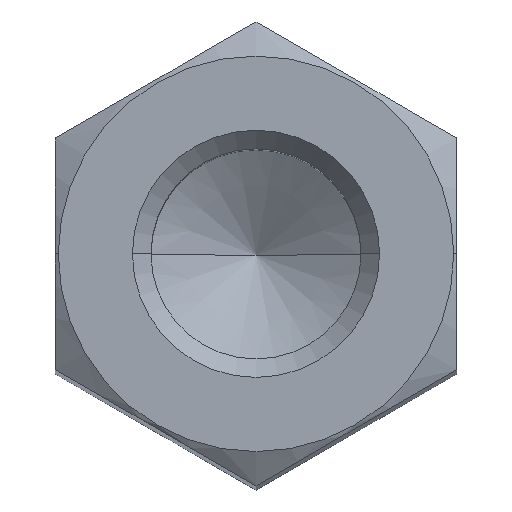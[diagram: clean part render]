
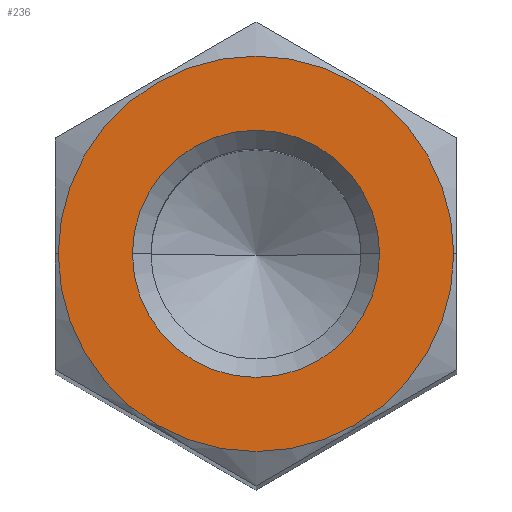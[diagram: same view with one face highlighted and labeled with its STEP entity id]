
A CAD part, top view. The second image highlights one B-rep face of the part: STEP entity #236.
In plain terms, the highlighted planar face has unit normal (0, 0, 1).
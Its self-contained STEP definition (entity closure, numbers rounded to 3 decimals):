
#28 = DIRECTION ( 'NONE',  ( 1., 0., 0. ) ) ;
#68 = DIRECTION ( 'NONE',  ( 1., 0., 0. ) ) ;
#73 = CARTESIAN_POINT ( 'NONE',  ( 0., 0., 0. ) ) ;
#125 = CARTESIAN_POINT ( 'NONE',  ( -4., 0., 0. ) ) ;
#132 = CARTESIAN_POINT ( 'NONE',  ( 0., 0., 0. ) ) ;
#139 = CARTESIAN_POINT ( 'NONE',  ( 0., 0., 0. ) ) ;
#186 = CIRCLE ( 'NONE', #248, 4. ) ;
#190 = CIRCLE ( 'NONE', #430, 6.4 ) ;
#200 = EDGE_CURVE ( 'NONE', #488, #862, #280, .T. ) ;
#236 = ADVANCED_FACE ( 'NONE', ( #267, #265 ), #623, .T. ) ;
#248 = AXIS2_PLACEMENT_3D ( 'NONE', #73, #252, #28 ) ;
#252 = DIRECTION ( 'NONE',  ( 0., 0., -1. ) ) ;
#259 = DIRECTION ( 'NONE',  ( 0., 0., -1. ) ) ;
#265 = FACE_OUTER_BOUND ( 'NONE', #473, .T. ) ;
#267 = FACE_BOUND ( 'NONE', #540, .T. ) ;
#269 = CIRCLE ( 'NONE', #835, 6.4 ) ;
#280 = CIRCLE ( 'NONE', #586, 4. ) ;
#295 = EDGE_CURVE ( 'NONE', #452, #421, #269, .T. ) ;
#366 = CARTESIAN_POINT ( 'NONE',  ( 4., 0., 0. ) ) ;
#367 = EDGE_CURVE ( 'NONE', #862, #488, #186, .T. ) ;
#409 = EDGE_CURVE ( 'NONE', #421, #452, #190, .T. ) ;
#416 = ORIENTED_EDGE ( 'NONE', *, *, #367, .T. ) ;
#421 = VERTEX_POINT ( 'NONE', #676 ) ;
#430 = AXIS2_PLACEMENT_3D ( 'NONE', #855, #565, #68 ) ;
#452 = VERTEX_POINT ( 'NONE', #629 ) ;
#473 = EDGE_LOOP ( 'NONE', ( #687, #512 ) ) ;
#474 = DIRECTION ( 'NONE',  ( 0., 0., 1. ) ) ;
#488 = VERTEX_POINT ( 'NONE', #366 ) ;
#498 = ORIENTED_EDGE ( 'NONE', *, *, #200, .T. ) ;
#512 = ORIENTED_EDGE ( 'NONE', *, *, #409, .T. ) ;
#540 = EDGE_LOOP ( 'NONE', ( #498, #416 ) ) ;
#565 = DIRECTION ( 'NONE',  ( 0., 0., 1. ) ) ;
#586 = AXIS2_PLACEMENT_3D ( 'NONE', #733, #259, #752 ) ;
#623 = PLANE ( 'NONE',  #808 ) ;
#629 = CARTESIAN_POINT ( 'NONE',  ( -6.4, 0., 0. ) ) ;
#676 = CARTESIAN_POINT ( 'NONE',  ( 6.4, 0., 0. ) ) ;
#687 = ORIENTED_EDGE ( 'NONE', *, *, #295, .T. ) ;
#733 = CARTESIAN_POINT ( 'NONE',  ( 0., 0., 0. ) ) ;
#752 = DIRECTION ( 'NONE',  ( 1., 0., 0. ) ) ;
#763 = DIRECTION ( 'NONE',  ( 0., 0., 1. ) ) ;
#808 = AXIS2_PLACEMENT_3D ( 'NONE', #139, #763, #854 ) ;
#835 = AXIS2_PLACEMENT_3D ( 'NONE', #132, #474, #860 ) ;
#854 = DIRECTION ( 'NONE',  ( 1., 0., 0. ) ) ;
#855 = CARTESIAN_POINT ( 'NONE',  ( 0., 0., 0. ) ) ;
#860 = DIRECTION ( 'NONE',  ( 1., 0., 0. ) ) ;
#862 = VERTEX_POINT ( 'NONE', #125 ) ;
